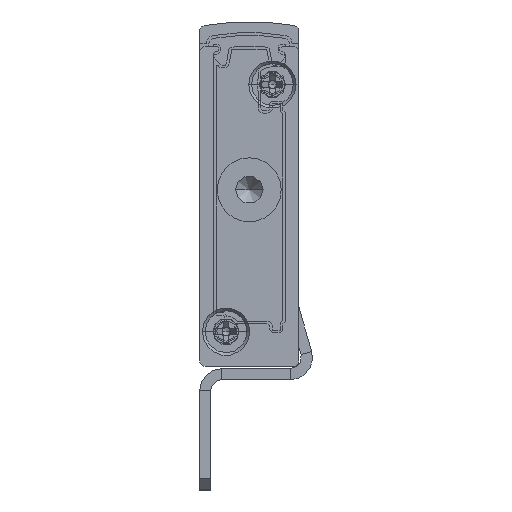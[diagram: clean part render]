
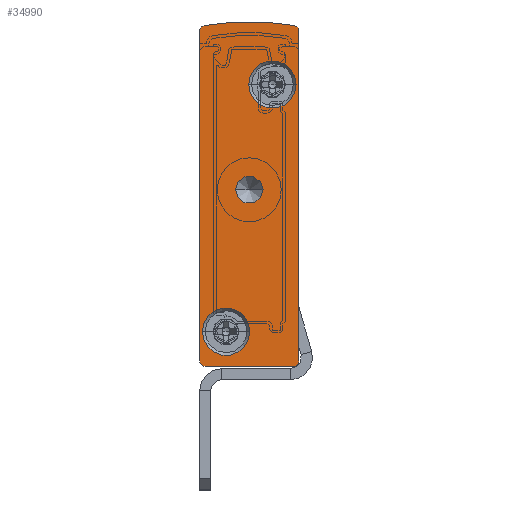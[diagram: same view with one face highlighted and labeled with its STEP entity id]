
A CAD part, front view. The second image highlights one B-rep face of the part: STEP entity #34990.
In plain terms, the highlighted planar face has unit normal (0, -1, 0).
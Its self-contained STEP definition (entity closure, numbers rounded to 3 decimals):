
#39 = CARTESIAN_POINT ( 'NONE',  ( -9., -2.5, 0.5 ) ) ;
#68 = EDGE_CURVE ( 'NONE', #11571, #5102, #38222, .T. ) ;
#888 = EDGE_CURVE ( 'NONE', #25490, #28122, #36671, .T. ) ;
#1438 = CARTESIAN_POINT ( 'NONE',  ( -5.75, -2.5, 16. ) ) ;
#2004 = EDGE_CURVE ( 'NONE', #5102, #11571, #10332, .T. ) ;
#2537 = PLANE ( 'NONE',  #24361 ) ;
#2733 = DIRECTION ( 'NONE',  ( -1., 0., 0. ) ) ;
#2805 = CARTESIAN_POINT ( 'NONE',  ( -8.5, -2.5, 30.402 ) ) ;
#3021 = DIRECTION ( 'NONE',  ( 1., 0., 0. ) ) ;
#3251 = AXIS2_PLACEMENT_3D ( 'NONE', #16597, #10331, #34597 ) ;
#3760 = DIRECTION ( 'NONE',  ( 0., 1., 0. ) ) ;
#3971 = VECTOR ( 'NONE', #24762, 1000. ) ;
#4058 = EDGE_CURVE ( 'NONE', #33580, #39450, #33731, .T. ) ;
#4298 = DIRECTION ( 'NONE',  ( -1., 0., 0. ) ) ;
#4750 = DIRECTION ( 'NONE',  ( -1., 0., 0. ) ) ;
#5102 = VERTEX_POINT ( 'NONE', #22045 ) ;
#5470 = EDGE_CURVE ( 'NONE', #24035, #12440, #27901, .T. ) ;
#5476 = FACE_OUTER_BOUND ( 'NONE', #18162, .T. ) ;
#5967 = CARTESIAN_POINT ( 'NONE',  ( -0.5, -2.5, 0.5 ) ) ;
#6019 = DIRECTION ( 'NONE',  ( 0., 1., 0. ) ) ;
#6116 = EDGE_CURVE ( 'NONE', #12440, #24035, #12084, .T. ) ;
#6202 = DIRECTION ( 'NONE',  ( -1., 0., 0. ) ) ;
#6276 = ORIENTED_EDGE ( 'NONE', *, *, #17606, .F. ) ;
#6330 = EDGE_CURVE ( 'NONE', #17896, #24095, #16787, .T. ) ;
#6370 = ORIENTED_EDGE ( 'NONE', *, *, #2004, .F. ) ;
#6645 = CARTESIAN_POINT ( 'NONE',  ( -8.5, -2.5, 30.402 ) ) ;
#7013 = ORIENTED_EDGE ( 'NONE', *, *, #68, .F. ) ;
#7036 = EDGE_CURVE ( 'NONE', #28122, #38871, #12613, .T. ) ;
#7495 = DIRECTION ( 'NONE',  ( 0., 1., 0. ) ) ;
#8391 = CARTESIAN_POINT ( 'NONE',  ( -6.6, -2.5, 3.15 ) ) ;
#8875 = DIRECTION ( 'NONE',  ( 0., 1., 0. ) ) ;
#8968 = DIRECTION ( 'NONE',  ( 0., -1., 0. ) ) ;
#9161 = AXIS2_PLACEMENT_3D ( 'NONE', #6645, #30987, #12745 ) ;
#9175 = CARTESIAN_POINT ( 'NONE',  ( 0., -2.5, 0.5 ) ) ;
#10331 = DIRECTION ( 'NONE',  ( 0., -1., 0. ) ) ;
#10332 = CIRCLE ( 'NONE', #37548, 2.15 ) ;
#10915 = EDGE_LOOP ( 'NONE', ( #21764, #39386 ) ) ;
#11061 = VERTEX_POINT ( 'NONE', #1438 ) ;
#11348 = DIRECTION ( 'NONE',  ( 1., 0., 0. ) ) ;
#11571 = VERTEX_POINT ( 'NONE', #23119 ) ;
#12084 = CIRCLE ( 'NONE', #30171, 2.15 ) ;
#12402 = AXIS2_PLACEMENT_3D ( 'NONE', #24280, #6019, #2733 ) ;
#12440 = VERTEX_POINT ( 'NONE', #35970 ) ;
#12613 = CIRCLE ( 'NONE', #15487, 23.658 ) ;
#12745 = DIRECTION ( 'NONE',  ( -1., 0., 0. ) ) ;
#13792 = ORIENTED_EDGE ( 'NONE', *, *, #6116, .F. ) ;
#14572 = EDGE_CURVE ( 'NONE', #38871, #33580, #25904, .T. ) ;
#15063 = VERTEX_POINT ( 'NONE', #31307 ) ;
#15272 = DIRECTION ( 'NONE',  ( -1., 0., 0. ) ) ;
#15327 = AXIS2_PLACEMENT_3D ( 'NONE', #25729, #7495, #4298 ) ;
#15404 = DIRECTION ( 'NONE',  ( 0., 1., 0. ) ) ;
#15487 = AXIS2_PLACEMENT_3D ( 'NONE', #29517, #38728, #4750 ) ;
#16597 = CARTESIAN_POINT ( 'NONE',  ( -6.6, -2.5, 3.15 ) ) ;
#16787 = LINE ( 'NONE', #19047, #3971 ) ;
#17403 = FACE_BOUND ( 'NONE', #20999, .T. ) ;
#17606 = EDGE_CURVE ( 'NONE', #39450, #17896, #31554, .T. ) ;
#17896 = VERTEX_POINT ( 'NONE', #34946 ) ;
#18095 = AXIS2_PLACEMENT_3D ( 'NONE', #37452, #3760, #31196 ) ;
#18162 = EDGE_LOOP ( 'NONE', ( #19300, #18925, #30367, #34599, #6276, #28195, #36936, #27887 ) ) ;
#18498 = AXIS2_PLACEMENT_3D ( 'NONE', #31844, #34520, #37571 ) ;
#18925 = ORIENTED_EDGE ( 'NONE', *, *, #36850, .F. ) ;
#19047 = CARTESIAN_POINT ( 'NONE',  ( -8.5, -2.5, 0. ) ) ;
#19300 = ORIENTED_EDGE ( 'NONE', *, *, #888, .F. ) ;
#20999 = EDGE_LOOP ( 'NONE', ( #6370, #7013 ) ) ;
#21764 = ORIENTED_EDGE ( 'NONE', *, *, #28595, .T. ) ;
#22045 = CARTESIAN_POINT ( 'NONE',  ( -4.45, -2.5, 3.15 ) ) ;
#22354 = VECTOR ( 'NONE', #23386, 1000. ) ;
#23119 = CARTESIAN_POINT ( 'NONE',  ( -8.75, -2.5, 3.15 ) ) ;
#23386 = DIRECTION ( 'NONE',  ( 0., 0., -1. ) ) ;
#23507 = DIRECTION ( 'NONE',  ( 0., -1., 0. ) ) ;
#23642 = CARTESIAN_POINT ( 'NONE',  ( -2.4, -2.5, 25.55 ) ) ;
#23764 = VERTEX_POINT ( 'NONE', #39 ) ;
#24035 = VERTEX_POINT ( 'NONE', #29300 ) ;
#24095 = VERTEX_POINT ( 'NONE', #38212 ) ;
#24280 = CARTESIAN_POINT ( 'NONE',  ( -4.5, -2.5, 16. ) ) ;
#24361 = AXIS2_PLACEMENT_3D ( 'NONE', #2805, #15404, #6202 ) ;
#24762 = DIRECTION ( 'NONE',  ( -1., 0., 0. ) ) ;
#25119 = CARTESIAN_POINT ( 'NONE',  ( -8.592, -2.5, 30.893 ) ) ;
#25490 = VERTEX_POINT ( 'NONE', #28480 ) ;
#25729 = CARTESIAN_POINT ( 'NONE',  ( -8.5, -2.5, 0.5 ) ) ;
#25904 = CIRCLE ( 'NONE', #18498, 0.5 ) ;
#26626 = CARTESIAN_POINT ( 'NONE',  ( -9., -2.5, 30.402 ) ) ;
#27074 = AXIS2_PLACEMENT_3D ( 'NONE', #5967, #8875, #15272 ) ;
#27473 = EDGE_CURVE ( 'NONE', #15063, #11061, #39374, .T. ) ;
#27870 = CARTESIAN_POINT ( 'NONE',  ( -0.408, -2.5, 30.893 ) ) ;
#27887 = ORIENTED_EDGE ( 'NONE', *, *, #7036, .F. ) ;
#27901 = CIRCLE ( 'NONE', #30881, 2.15 ) ;
#28122 = VERTEX_POINT ( 'NONE', #25119 ) ;
#28195 = ORIENTED_EDGE ( 'NONE', *, *, #4058, .F. ) ;
#28480 = CARTESIAN_POINT ( 'NONE',  ( -9., -2.5, 30.402 ) ) ;
#28595 = EDGE_CURVE ( 'NONE', #11061, #15063, #31843, .T. ) ;
#29300 = CARTESIAN_POINT ( 'NONE',  ( -0.25, -2.5, 25.55 ) ) ;
#29517 = CARTESIAN_POINT ( 'NONE',  ( -4.5, -2.5, 7.592 ) ) ;
#30171 = AXIS2_PLACEMENT_3D ( 'NONE', #23642, #23507, #11348 ) ;
#30350 = ORIENTED_EDGE ( 'NONE', *, *, #5470, .F. ) ;
#30367 = ORIENTED_EDGE ( 'NONE', *, *, #39193, .F. ) ;
#30881 = AXIS2_PLACEMENT_3D ( 'NONE', #39505, #8968, #3021 ) ;
#30987 = DIRECTION ( 'NONE',  ( 0., 1., 0. ) ) ;
#31196 = DIRECTION ( 'NONE',  ( -1., 0., 0. ) ) ;
#31307 = CARTESIAN_POINT ( 'NONE',  ( -3.25, -2.5, 16. ) ) ;
#31554 = CIRCLE ( 'NONE', #27074, 0.5 ) ;
#31843 = CIRCLE ( 'NONE', #18095, 1.25 ) ;
#31844 = CARTESIAN_POINT ( 'NONE',  ( -0.5, -2.5, 30.402 ) ) ;
#32626 = VECTOR ( 'NONE', #32787, 1000. ) ;
#32660 = CIRCLE ( 'NONE', #15327, 0.5 ) ;
#32787 = DIRECTION ( 'NONE',  ( 0., 0., 1. ) ) ;
#32852 = CARTESIAN_POINT ( 'NONE',  ( 0., -2.5, 30.402 ) ) ;
#32902 = DIRECTION ( 'NONE',  ( 0., -1., 0. ) ) ;
#33105 = FACE_BOUND ( 'NONE', #39155, .T. ) ;
#33580 = VERTEX_POINT ( 'NONE', #32852 ) ;
#33731 = LINE ( 'NONE', #35625, #22354 ) ;
#33931 = DIRECTION ( 'NONE',  ( 1., 0., 0. ) ) ;
#34520 = DIRECTION ( 'NONE',  ( 0., 1., 0. ) ) ;
#34597 = DIRECTION ( 'NONE',  ( 1., 0., 0. ) ) ;
#34599 = ORIENTED_EDGE ( 'NONE', *, *, #6330, .F. ) ;
#34946 = CARTESIAN_POINT ( 'NONE',  ( -0.5, -2.5, 0. ) ) ;
#34990 = ADVANCED_FACE ( 'NONE', ( #33105, #17403, #5476, #36923 ), #2537, .F. ) ;
#35625 = CARTESIAN_POINT ( 'NONE',  ( 0., -2.5, 30.402 ) ) ;
#35970 = CARTESIAN_POINT ( 'NONE',  ( -4.55, -2.5, 25.55 ) ) ;
#36671 = CIRCLE ( 'NONE', #9161, 0.5 ) ;
#36850 = EDGE_CURVE ( 'NONE', #23764, #25490, #36898, .T. ) ;
#36898 = LINE ( 'NONE', #26626, #32626 ) ;
#36923 = FACE_BOUND ( 'NONE', #10915, .T. ) ;
#36936 = ORIENTED_EDGE ( 'NONE', *, *, #14572, .F. ) ;
#37452 = CARTESIAN_POINT ( 'NONE',  ( -4.5, -2.5, 16. ) ) ;
#37548 = AXIS2_PLACEMENT_3D ( 'NONE', #8391, #32902, #33931 ) ;
#37571 = DIRECTION ( 'NONE',  ( -1., 0., 0. ) ) ;
#38212 = CARTESIAN_POINT ( 'NONE',  ( -8.5, -2.5, 0. ) ) ;
#38222 = CIRCLE ( 'NONE', #3251, 2.15 ) ;
#38728 = DIRECTION ( 'NONE',  ( 0., 1., 0. ) ) ;
#38871 = VERTEX_POINT ( 'NONE', #27870 ) ;
#39155 = EDGE_LOOP ( 'NONE', ( #30350, #13792 ) ) ;
#39193 = EDGE_CURVE ( 'NONE', #24095, #23764, #32660, .T. ) ;
#39374 = CIRCLE ( 'NONE', #12402, 1.25 ) ;
#39386 = ORIENTED_EDGE ( 'NONE', *, *, #27473, .T. ) ;
#39450 = VERTEX_POINT ( 'NONE', #9175 ) ;
#39505 = CARTESIAN_POINT ( 'NONE',  ( -2.4, -2.5, 25.55 ) ) ;
